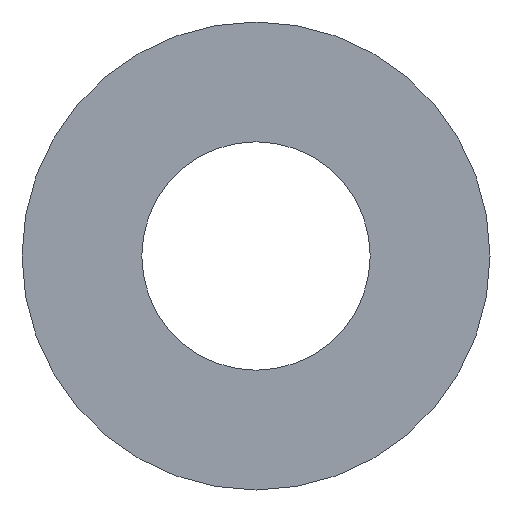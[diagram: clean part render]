
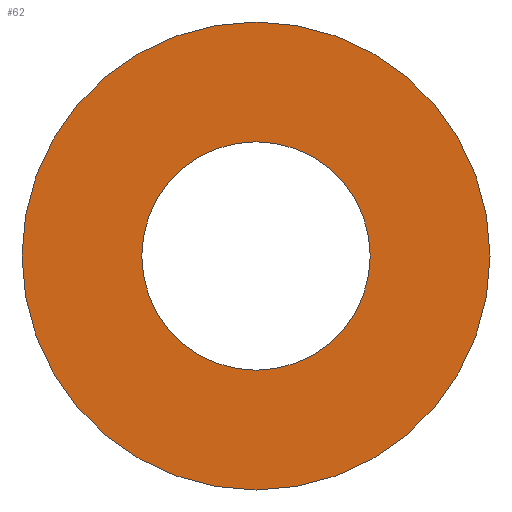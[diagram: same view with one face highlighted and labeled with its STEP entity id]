
A CAD part, front view. The second image highlights one B-rep face of the part: STEP entity #62.
In plain terms, the highlighted planar face has unit normal (0, -1, 0).
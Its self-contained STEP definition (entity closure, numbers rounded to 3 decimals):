
#20=PLANE('',#83);
#26=ORIENTED_EDGE('',*,*,#30,.T.);
#27=ORIENTED_EDGE('',*,*,#32,.F.);
#30=EDGE_CURVE('',#34,#34,#38,.T.);
#32=EDGE_CURVE('',#36,#36,#40,.T.);
#34=VERTEX_POINT('',#106);
#36=VERTEX_POINT('',#111);
#38=CIRCLE('',#78,41.);
#40=CIRCLE('',#81,84.);
#46=EDGE_LOOP('',(#26));
#47=EDGE_LOOP('',(#27));
#54=FACE_BOUND('',#46,.T.);
#55=FACE_BOUND('',#47,.T.);
#62=ADVANCED_FACE('',(#54,#55),#20,.F.);
#78=AXIS2_PLACEMENT_3D('',#105,#89,#90);
#81=AXIS2_PLACEMENT_3D('',#110,#95,#96);
#83=AXIS2_PLACEMENT_3D('',#114,#99,#100);
#89=DIRECTION('',(0.,1.,0.));
#90=DIRECTION('',(1.,0.,0.));
#95=DIRECTION('',(0.,1.,0.));
#96=DIRECTION('',(1.,0.,0.));
#99=DIRECTION('',(0.,1.,0.));
#100=DIRECTION('',(0.,0.,1.));
#105=CARTESIAN_POINT('',(0.,-1.5,0.));
#106=CARTESIAN_POINT('',(41.,-1.5,0.));
#110=CARTESIAN_POINT('',(0.,-1.5,0.));
#111=CARTESIAN_POINT('',(84.,-1.5,0.));
#114=CARTESIAN_POINT('',(0.,-1.5,0.));
